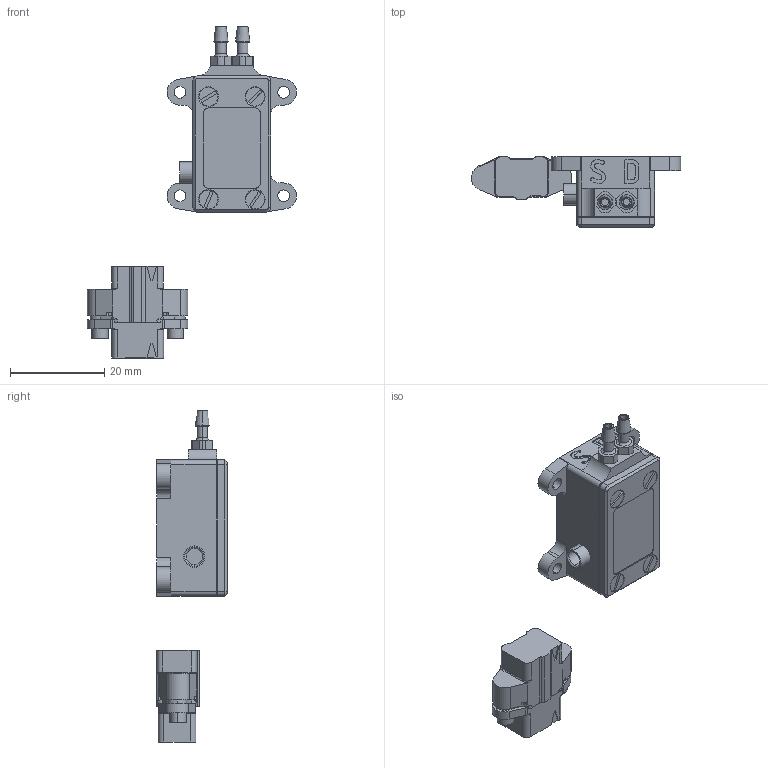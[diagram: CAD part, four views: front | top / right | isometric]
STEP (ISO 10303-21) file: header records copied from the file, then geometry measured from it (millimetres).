
FILE_DESCRIPTION (( 'STEP AP214' ), '1' );
FILE_NAME ('UV01.431329.103.320 WWW Data Processing Unit Of Pilot Tube Micro (DPU-PTM).STEP', '2017-03-06T09:18:42', ( '' ), ( '' ), 'SwSTEP 2.0', 'SolidWorks 2017', '' );
FILE_SCHEMA (( 'AUTOMOTIVE_DESIGN' ));
Length unit declared in the file: millimetre
Products named in the file (1): UV01.431329.103.320 WWW Data Processing Unit Of Pilot Tube Micro (DPU-PTM)
Bounding box: 44.4 x 15 x 70.45 mm (x, y, z)
Volume: 9803.2 mm3; surface area: 4441.5 mm2
Topology: 2 solids, 2 shells, 396 faces, 1052 edges, 678 vertices
Faces by surface type: plane 199, cylinder 127, bspline 32, cone 24, torus 14
Entity records: 16299 total; most frequent: CARTESIAN_POINT 3629, ORIENTED_EDGE 2096, DIRECTION 2004, EDGE_CURVE 1048, AXIS2_PLACEMENT_3D 703, VERTEX_POINT 678, LINE 598, VECTOR 598
